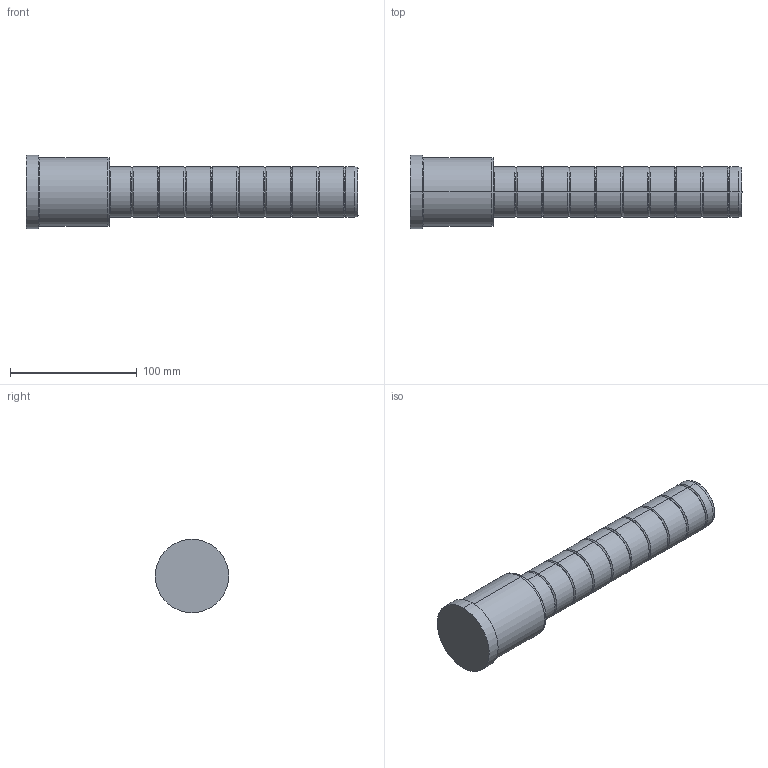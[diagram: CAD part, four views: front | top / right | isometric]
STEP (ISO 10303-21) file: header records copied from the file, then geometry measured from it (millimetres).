
FILE_DESCRIPTION( ( 'STEP AP203' ), '1' );
FILE_NAME( 'C:/Projects/D02 - 40x66x196.step', '2003-01-04T14:14:42', ( ' ' ), ( ' ' ), 'XStep 1.0', ' ', ' ' );
FILE_SCHEMA( ( 'CONFIG_CONTROL_DESIGN' ) );
Length unit declared in the file: metre
Products named in the file (1): 1
Bounding box: 262 x 58 x 58 mm (x, y, z)
Volume: 399147.8 mm3; surface area: 42223.4 mm2
Topology: 1 solids, 1 shells, 78 faces, 154 edges, 82 vertices
Faces by surface type: bspline 46, revolution 32
Entity records: 2513 total; most frequent: CARTESIAN_POINT 1117, ORIENTED_EDGE 308, DIRECTION 230, EDGE_CURVE 154, AXIS2_PLACEMENT_3D 83, EDGE_LOOP 82, VERTEX_POINT 82, CIRCLE 82
